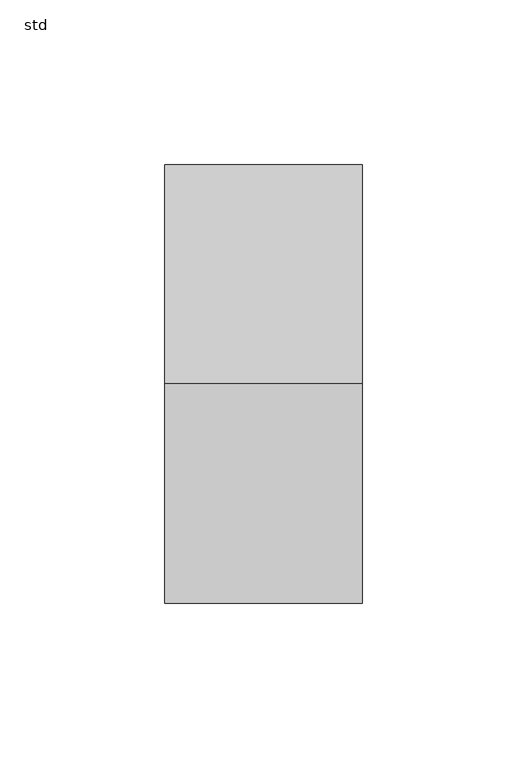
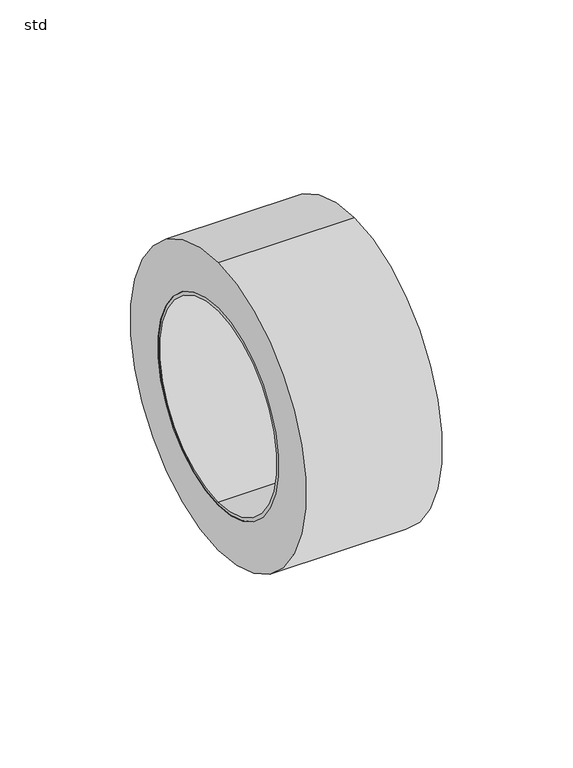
"""IFC4 building model written with IfcOpenShell, lengths in millimetres: pipe fitting geometry, PIF_ST_UN_GM-X compound pipe multi-optimiser (transition)_ACO : std."""

from ifc_helpers import new_model, si_unit, point, frame, origin, origin_2d, place, context, project, spatial, polyline, circle_curve, trimmed, segment, composite_curve, outline, extrude, source, transform, mapped, element, save
from ifc_brep_helpers import plane_surface, cylinder_surface, revolved_surface, advanced_brep


def std_e68f9b3b(model_context):
    return source(origin(), model_context, "Body", "SolidModel", [
        extrude(outline(composite_curve([segment(trimmed(circle_curve(origin_2d(), 67.0), [point((0.0, -67.0))], [point((0.0, 67.0))], False, "CARTESIAN"), True, "CONTINUOUS"), segment(trimmed(circle_curve(origin_2d(), 67.0), [point((0.0, 67.0))], [point((0.0, -67.0))], False, "CARTESIAN"), True, "CONTINUOUS")], self_intersect=False), holes=[composite_curve([segment(trimmed(circle_curve(origin_2d(), 46.0), [point((0.0, -46.0))], [point((0.0, 46.0))], True, "CARTESIAN"), True, "CONTINUOUS"), segment(trimmed(circle_curve(origin_2d(), 46.0), [point((0.0, 46.0))], [point((0.0, -46.0))], True, "CARTESIAN"), True, "CONTINUOUS")], self_intersect=False)]), frame((705.0, 0.0, 0.0), z_axis=(1.0, 0.0, 0.0), x_axis=(0.0, 1.0, 0.0)), (0.0, 0.0, 1.0), 60.0),
        advanced_brep(
        [(765.0, 0.0, -46.0), (765.0, 0.0, 46.0), (765.0, 0.0, 44.5), (765.0, 0.0, -44.5), (705.0, 0.0, -46.0), (705.0, 0.0, 46.0), (705.0, 0.0, -44.5), (705.0, 0.0, 44.5), (713.2, 0.0, -46.0), (713.2, 0.0, 46.0), (736.0, 0.0, 46.0), (736.0, 0.0, -46.0), (736.0, 0.0, -51.3), (736.0, 0.0, 51.3), (713.2, 0.0, -51.3), (713.2, 0.0, 51.3)],
        [
            (0, 1, circle_curve(frame((765.0, 0.0, 0.0), z_axis=(1.0, 0.0, 0.0), x_axis=(0.0, 0.0, 1.0)), 46.0)),
            (1, 0, circle_curve(frame((765.0, 0.0, 0.0), z_axis=(1.0, 0.0, 0.0), x_axis=(0.0, 0.0, 1.0)), 46.0)),
            (2, 3, circle_curve(frame((765.0, 0.0, 0.0), z_axis=(-1.0, 0.0, 0.0), x_axis=(0.0, 0.0, 1.0)), 44.5)),
            (3, 2, circle_curve(frame((765.0, 0.0, 0.0), z_axis=(-1.0, 0.0, 0.0), x_axis=(0.0, 0.0, 1.0)), 44.5)),
            (4, 5, circle_curve(frame((705.0, 0.0, 0.0), z_axis=(-1.0, 0.0, 0.0), x_axis=(0.0, 0.0, 1.0)), 46.0)),
            (5, 4, circle_curve(frame((705.0, 0.0, 0.0), z_axis=(-1.0, 0.0, 0.0), x_axis=(0.0, 0.0, 1.0)), 46.0)),
            (6, 7, circle_curve(frame((705.0, 0.0, 0.0), z_axis=(1.0, 0.0, 0.0), x_axis=(0.0, 0.0, 1.0)), 44.5)),
            (7, 6, circle_curve(frame((705.0, 0.0, 0.0), z_axis=(1.0, 0.0, 0.0), x_axis=(0.0, 0.0, 1.0)), 44.5)),
            (4, 8),
            (8, 9, circle_curve(frame((713.2, 0.0, 0.0), z_axis=(-1.0, 0.0, 0.0), x_axis=(0.0, 0.0, 1.0)), 46.0)),
            (9, 5),
            (1, 10),
            (10, 11, circle_curve(frame((736.0, 0.0, 0.0), z_axis=(1.0, 0.0, 0.0), x_axis=(0.0, 0.0, 1.0)), 46.0)),
            (11, 0),
            (11, 10, circle_curve(frame((736.0, 0.0, 0.0), z_axis=(1.0, 0.0, 0.0), x_axis=(0.0, 0.0, 1.0)), 46.0)),
            (9, 8, circle_curve(frame((713.2, 0.0, 0.0), z_axis=(-1.0, 0.0, 0.0), x_axis=(0.0, 0.0, 1.0)), 46.0)),
            (3, 6),
            (7, 2),
            (12, 13, circle_curve(frame((736.0, 0.0, 0.0), z_axis=(1.0, 0.0, 0.0), x_axis=(0.0, 0.0, 1.0)), 51.3)),
            (13, 12, circle_curve(frame((736.0, 0.0, 0.0), z_axis=(1.0, 0.0, 0.0), x_axis=(0.0, 0.0, 1.0)), 51.3)),
            (14, 15, circle_curve(frame((713.2, 0.0, 0.0), z_axis=(-1.0, 0.0, 0.0), x_axis=(0.0, 0.0, 1.0)), 51.3)),
            (15, 14, circle_curve(frame((713.2, 0.0, 0.0), z_axis=(-1.0, 0.0, 0.0), x_axis=(0.0, 0.0, 1.0)), 51.3)),
            (13, 15),
            (14, 12),
        ],
        [
            plane_surface(frame((765.0, 0.0, 46.0), z_axis=(1.0, 0.0, 0.0), x_axis=(0.0, 1.0, 0.0))),
            plane_surface(frame((705.0, 0.0, 46.0), z_axis=(-1.0, 0.0, 0.0), x_axis=(0.0, -1.0, 0.0))),
            cylinder_surface(frame((705.0, 0.0, 0.0), z_axis=(1.0, 0.0, 0.0), x_axis=(0.0, 0.0, 1.0)), 46.0),
            revolved_surface(polyline([(765.0, 0.0, 44.5), (705.0, 0.0, 44.5)]), (705.0, 0.0, 0.0), (1.0, 0.0, 0.0)),
            plane_surface(frame((736.0, 0.0, 51.3), z_axis=(1.0, 0.0, 0.0), x_axis=(0.0, 1.0, 0.0))),
            plane_surface(frame((713.2, 0.0, 51.3), z_axis=(-1.0, 0.0, 0.0), x_axis=(0.0, -1.0, 0.0))),
            cylinder_surface(frame((713.2, 0.0, 0.0), z_axis=(1.0, 0.0, 0.0), x_axis=(0.0, 0.0, 1.0)), 51.3),
        ],
        [
            (0, [[1, 2], [3, 4]]),
            (1, [[5, 6], [7, 8]]),
            (2, [[9, 10, 11, -5]]),
            (2, [[12, 13, 14, -2]]),
            (2, [[-14, 15, -12, -1]]),
            (2, [[-11, 16, -9, -6]]),
            (3, [[-4, 17, -8, 18]]),
            (3, [[-7, -17, -3, -18]]),
            (4, [[19, 20], [-15, -13]]),
            (5, [[21, 22], [-16, -10]]),
            (6, [[23, -21, 24, -20]]),
            (6, [[-24, -22, -23, -19]]),
        ],
    ),
    ])


if __name__ == "__main__":
    model = new_model("IFC4")
    model_context = context("Model", 3, world=origin())
    ifc_project = project(units=[si_unit("LENGTHUNIT", "METRE", prefix="MILLI")], contexts=[model_context])
    site = spatial("IfcSite", under=ifc_project)
    building = spatial("IfcBuilding", under=site)
    placement = place(None, origin())
    std_shape = std_e68f9b3b(model_context)
    element("IfcPipeFitting", 1, ObjectType="PIF_ST_UN_GM-X compound pipe multi-optimiser (transition)_ACO : std", at=placement, inside=building, context=model_context, shape_type="MappedRepresentation", body=[
        mapped(std_shape, transform((0.0, 0.0, 0.0), x_axis=(1.0, 0.0, 0.0), y_axis=(0.0, 1.0, 0.0), z_axis=(0.0, 0.0, 1.0))),
    ])
    save(model, "model.ifc")
